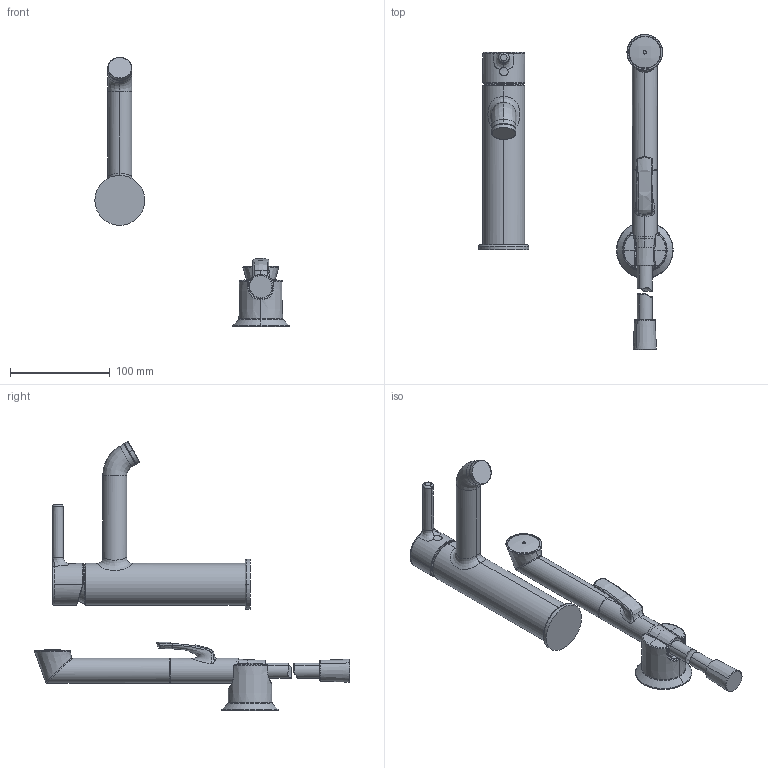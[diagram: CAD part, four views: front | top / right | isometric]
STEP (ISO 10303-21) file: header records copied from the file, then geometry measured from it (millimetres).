
FILE_DESCRIPTION (( 'STEP AP203' ), '1' );
FILE_NAME ('2606FH-105(2022).STEP', '2022-11-04T07:44:38', ( '' ), ( '' ), 'SwSTEP 2.0', 'SolidWorks 2016', '' );
FILE_SCHEMA (( 'CONFIG_CONTROL_DESIGN' ));
Length unit declared in the file: millimetre
Products named in the file (1): 2606FH-105(2022)
Bounding box: 194.54 x 315.51 x 269.38 mm (x, y, z)
Surface area: 92291.1 mm2 (no closed solid volume)
Topology: 0 solids, 11 shells, 207 faces, 483 edges, 305 vertices
Faces by surface type: bspline 108, plane 29, cylinder 28, torus 24, cone 14, sphere 4
Entity records: 30499 total; most frequent: CARTESIAN_POINT 26484, ORIENTED_EDGE 964, DIRECTION 611, EDGE_CURVE 483, VERTEX_POINT 305, AXIS2_PLACEMENT_3D 280, B_SPLINE_CURVE_WITH_KNOTS 234, EDGE_LOOP 215
